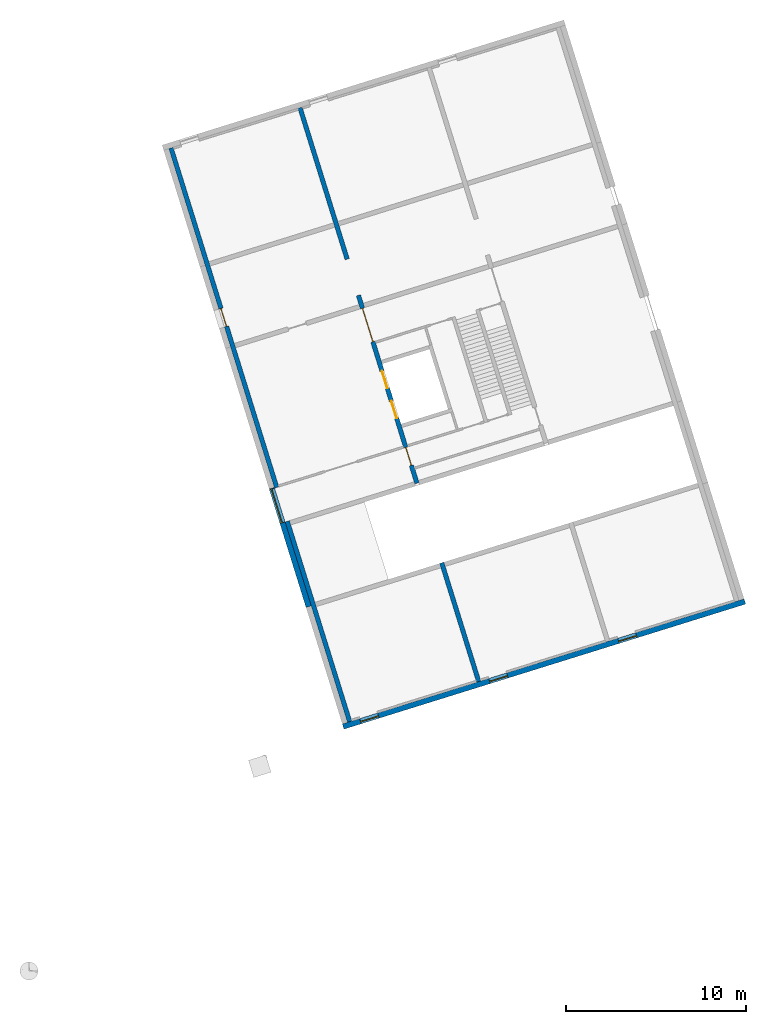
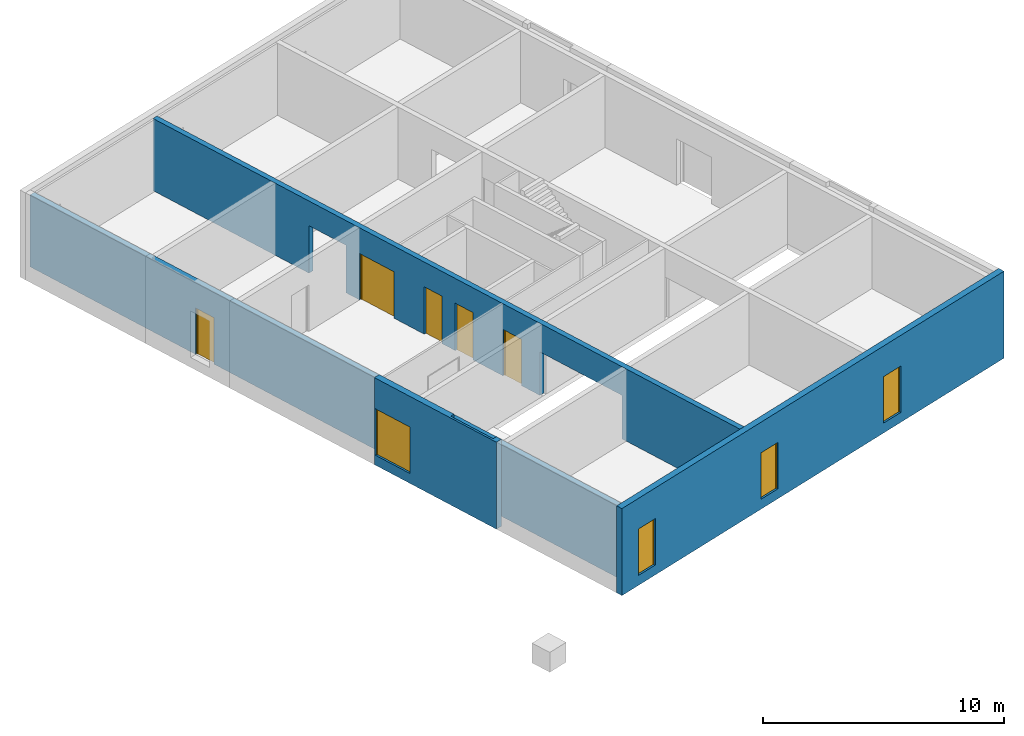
# One storey, part 3 of 6: 9 doors, 4 walls, 12 openings.
"""IFC4 building model written with IfcOpenShell, lengths in metres."""

import ifcopenshell
import ifcopenshell.guid

model = None  # the IFC model being written
_history = None  # IfcOwnerHistory: only IFC2X3 demands one
_inside = {}  # id of a spatial element -> (the spatial element, [elements in it])
_under = {}  # id of a project, library or spatial element -> (it, [spatial elements below it])
_declared = {}  # id of a project -> (the project, [libraries it declares])
_typed = {}  # id of a type object -> (the type object, [elements of that type])
_made_of = {}  # id of a material, layer set ... -> (it, [elements and type objects made of it])


def new_model(schema):
    """Start an empty IFC model of exactly this schema.

    Asked for "IFC4X3", IfcOpenShell would pick the latest addendum, in which some entities
    have other attributes; the version numbers below select the first issue.
    IFC2X3 requires an IfcOwnerHistory on every rooted entity: one is made here for all.
    """
    global model, _history
    if schema == "IFC4X3":
        model = ifcopenshell.file(schema_version=(4, 3, 0, 0))
    else:
        model = ifcopenshell.file(schema=schema)
    _inside.clear()
    _under.clear()
    _declared.clear()
    _typed.clear()
    _made_of.clear()
    _history = None
    if model.schema == "IFC2X3":
        org = make("IfcOrganization", Name="unknown")
        user = make(
            "IfcPersonAndOrganization",
            ThePerson=make("IfcPerson", FamilyName="unknown"),
            TheOrganization=org,
        )
        app = make(
            "IfcApplication",
            ApplicationDeveloper=org,
            Version="unknown",
            ApplicationFullName="unknown",
            ApplicationIdentifier="unknown",
        )
        _history = make(
            "IfcOwnerHistory",
            OwningUser=user,
            OwningApplication=app,
            ChangeAction="ADDED",
            CreationDate=0,
        )
    return model


def make(cls, **values):
    """One entity of the class cls with the attributes given. An attribute that is None is left unset."""
    return model.create_entity(
        cls, **{name: value for name, value in values.items() if value is not None}
    )


def entity(cls, *values):
    """Any entity or typed value of the class cls, its attributes in the order of the schema. None: left unset."""
    e = model.create_entity(cls)
    for i, value in enumerate(values):
        if value is not None:
            e[i] = value
    return e


def rooted(cls, **values):
    """An entity with a GlobalId (a new one), such as an element, a storey or a relation."""
    return make(cls, GlobalId=ifcopenshell.guid.new(), OwnerHistory=_history, **values)


def si_unit(unit_type, name, prefix=None):
    """IfcSIUnit, for example si_unit("LENGTHUNIT", "METRE", prefix="MILLI")."""
    return make("IfcSIUnit", UnitType=unit_type, Prefix=prefix, Name=name)


def converted_unit(unit_type, name, factor, base, dimensions=None, offset=None):
    """IfcConversionBasedUnit, such as the inch: factor (a typed value) times the base unit."""
    return make(
        "IfcConversionBasedUnit"
        if offset is None
        else "IfcConversionBasedUnitWithOffset",
        ConversionOffset=offset,
        Dimensions=None
        if dimensions is None
        else entity("IfcDimensionalExponents", *dimensions),
        UnitType=unit_type,
        Name=name,
        ConversionFactor=make(
            "IfcMeasureWithUnit", ValueComponent=factor, UnitComponent=base
        ),
    )


def assignment(units):
    """IfcUnitAssignment: the units of a project."""
    return None if units is None else make("IfcUnitAssignment", Units=units)


def point(xyz):
    """IfcCartesianPoint."""
    return None if xyz is None else make("IfcCartesianPoint", Coordinates=xyz)


def direction(xyz):
    """IfcDirection."""
    return None if xyz is None else make("IfcDirection", DirectionRatios=xyz)


def frame(location, z_axis=None, x_axis=None):
    """IfcAxis2Placement3D, a coordinate frame: its origin and axes. An axis left out is left unset."""
    return make(
        "IfcAxis2Placement3D",
        Location=point(location),
        Axis=direction(z_axis),
        RefDirection=direction(x_axis),
    )


def origin():
    """The frame at (0, 0, 0) with its axes left unset."""
    return frame((0.0, 0.0, 0.0))


def place(relative_to, where):
    """IfcLocalPlacement: puts the frame where relative to a parent placement (None: the world)."""
    return make(
        "IfcLocalPlacement", PlacementRelTo=relative_to, RelativePlacement=where
    )


def context(
    kind, dimensions, precision=None, world=None, true_north=None, identifier=None
):
    """IfcGeometricRepresentationContext, for example the 3D "Model" context."""
    return make(
        "IfcGeometricRepresentationContext",
        ContextIdentifier=identifier,
        ContextType=kind,
        CoordinateSpaceDimension=dimensions,
        Precision=precision,
        WorldCoordinateSystem=world,
        TrueNorth=true_north,
    )


def subcontext(parent, identifier, kind, view, scale=None):
    """IfcGeometricRepresentationSubContext, for example "Body" below "Model"."""
    return make(
        "IfcGeometricRepresentationSubContext",
        ContextIdentifier=identifier,
        ContextType=kind,
        ParentContext=parent,
        TargetScale=scale,
        TargetView=view,
    )


def project(units=None, contexts=None):
    """IfcProject with its units and contexts."""
    return rooted(
        "IfcProject",
        Name="project",
        RepresentationContexts=contexts,
        UnitsInContext=assignment(units),
    )


def spatial(cls, under=None, at=None, **own):
    """A site, building, storey or space (cls), placed at a placement, below another one or the project."""
    s = rooted(cls, ObjectPlacement=at, **own)
    if under is not None:
        _under.setdefault(under.id(), (under, []))[1].append(s)
    return s


def point_list(points):
    """IfcCartesianPointList2D or 3D."""
    cls = (
        "IfcCartesianPointList2D" if len(points[0]) == 2 else "IfcCartesianPointList3D"
    )
    return make(cls, CoordList=points)


def indexed_curve(points, segments=None, self_intersect=None):
    """IfcIndexedPolyCurve: lines and arcs through numbered points (the first is 1)."""
    return make(
        "IfcIndexedPolyCurve",
        Points=point_list(points),
        Segments=segments,
        SelfIntersect=self_intersect,
    )


def outline(outer, holes=None, kind="AREA"):
    """IfcArbitraryClosedProfileDef: a profile drawn as a closed curve; with holes, ...WithVoids."""
    if holes is None:
        return make("IfcArbitraryClosedProfileDef", ProfileType=kind, OuterCurve=outer)
    return make(
        "IfcArbitraryProfileDefWithVoids",
        ProfileType=kind,
        OuterCurve=outer,
        InnerCurves=holes,
    )


def extrude(swept, where, along, depth):
    """IfcExtrudedAreaSolid: the profile swept, set in the frame where, extruded along a direction by depth."""
    return make(
        "IfcExtrudedAreaSolid",
        SweptArea=swept,
        Position=where,
        ExtrudedDirection=direction(along),
        Depth=depth,
    )


def polygons(points, faces, closed=None, point_numbers=None):
    """IfcPolygonalFaceSet: a face is its outer loop, then its inner loops; points numbered from 1."""
    made = []
    for loops in faces:
        if len(loops) == 1:
            made.append(make("IfcIndexedPolygonalFace", CoordIndex=loops[0]))
        else:
            made.append(
                make(
                    "IfcIndexedPolygonalFaceWithVoids",
                    CoordIndex=loops[0],
                    InnerCoordIndices=loops[1:],
                )
            )
    return make(
        "IfcPolygonalFaceSet",
        Coordinates=point_list(points),
        Closed=closed,
        Faces=made,
        PnIndex=point_numbers,
    )


def shape(context_of_items, identifier, shape_type, items):
    """IfcShapeRepresentation: the items that make up one representation, for example the "Body"."""
    return make(
        "IfcShapeRepresentation",
        ContextOfItems=context_of_items,
        RepresentationIdentifier=identifier,
        RepresentationType=shape_type,
        Items=items,
    )


def source(mapping_origin, context_of_items, identifier, shape_type, items):
    """IfcRepresentationMap: a shape defined once, which mapped items show again and again."""
    return make(
        "IfcRepresentationMap",
        MappingOrigin=mapping_origin,
        MappedRepresentation=shape(context_of_items, identifier, shape_type, items),
    )


def transform(
    local_origin,
    x_axis=None,
    y_axis=None,
    z_axis=None,
    scale=None,
    scale2=None,
    scale3=None,
    uniform=True,
):
    """IfcCartesianTransformationOperator3D, or its non-uniform kind. x_axis, y_axis, z_axis: its Axis1, 2, 3."""
    if uniform:
        return make(
            "IfcCartesianTransformationOperator3D",
            Axis1=direction(x_axis),
            Axis2=direction(y_axis),
            LocalOrigin=point(local_origin),
            Scale=scale,
            Axis3=direction(z_axis),
        )
    return make(
        "IfcCartesianTransformationOperator3DnonUniform",
        Axis1=direction(x_axis),
        Axis2=direction(y_axis),
        LocalOrigin=point(local_origin),
        Scale=scale,
        Axis3=direction(z_axis),
        Scale2=scale2,
        Scale3=scale3,
    )


def mapped(mapping_source, mapping_target):
    """IfcMappedItem: shows the shape of a source again, moved by a transform."""
    return make(
        "IfcMappedItem", MappingSource=mapping_source, MappingTarget=mapping_target
    )


def material(Name=None, Category=None):
    """IfcMaterial."""
    return make("IfcMaterial", Name=Name, Category=Category)


def constituent(of_material, Name=None, Category=None, fraction=None):
    """IfcMaterialConstituent: one of the materials an element consists of."""
    return make(
        "IfcMaterialConstituent",
        Name=Name,
        Material=of_material,
        Fraction=fraction,
        Category=Category,
    )


def constituent_set(constituents=None, Name=None):
    """IfcMaterialConstituentSet."""
    return make(
        "IfcMaterialConstituentSet", Name=Name, MaterialConstituents=constituents
    )


def made_of(thing, what):
    """Note that an element or type object is made of a material, layer set ...; save() writes the relation."""
    if what is not None:
        _made_of.setdefault(what.id(), (what, []))[1].append(thing)
    return thing


def type_object(cls, material=None, **own):
    """A type object (cls), such as IfcWallType, which elements share."""
    return made_of(rooted(cls, **own), material)


def type_shapes(of_type, sources):
    """Give a type object the sources (RepresentationMaps) that its elements show as mapped items."""
    of_type.RepresentationMaps = sources


def element(
    cls,
    number,
    at=None,
    inside=None,
    cuts=None,
    type_object=None,
    material=None,
    context=None,
    identifier="Body",
    shape_type=None,
    held_by="IfcProductDefinitionShape",
    body=None,
    shapes=None,
    **own,
):
    """One element of the class cls, such as IfcWall. Its Tag is "e" and its number.

    at: its placement. inside: the storey or other place that contains it. cuts: it is an
    opening in that element (IfcRelVoidsElement). A single representation is given by context,
    identifier, shape_type and body (its items); several are given by shapes. held_by: the class
    of the entity that holds the representations. save() writes the other relations.
    """
    e = rooted(cls, Tag="e%d" % number, ObjectPlacement=at, **own)
    if body is not None:
        shapes = [shape(context, identifier, shape_type, body)]
    if shapes is not None:
        e.Representation = make(held_by, Representations=shapes)
    if inside is not None:
        _inside.setdefault(inside.id(), (inside, []))[1].append(e)
    if cuts is not None:
        rooted(
            "IfcRelVoidsElement", RelatingBuildingElement=cuts, RelatedOpeningElement=e
        )
    if type_object is not None:
        _typed.setdefault(type_object.id(), (type_object, []))[1].append(e)
    return made_of(e, material)


def fill(opening, filler):
    """IfcRelFillsElement: the door or window that sits in an opening."""
    return rooted(
        "IfcRelFillsElement",
        RelatingOpeningElement=opening,
        RelatedBuildingElement=filler,
    )


def aggregate(whole, parts):
    """IfcRelAggregates: a whole, such as a stair, and the parts it consists of."""
    return rooted("IfcRelAggregates", RelatingObject=whole, RelatedObjects=parts)


def save(model, path):
    """Write the relations noted so far, then the file.

    IfcRelAggregates (storeys below a building ...), IfcRelContainedInSpatialStructure (elements
    in a storey), IfcRelDefinesByType, IfcRelAssociatesMaterial and IfcRelDeclares: one each for
    every whole, place, type object, material and project.
    """
    for whole, parts in _under.values():
        aggregate(whole, parts)
    for where, things in _inside.values():
        rooted(
            "IfcRelContainedInSpatialStructure",
            RelatedElements=things,
            RelatingStructure=where,
        )
    for kind, things in _typed.values():
        rooted("IfcRelDefinesByType", RelatedObjects=things, RelatingType=kind)
    for what, things in _made_of.values():
        rooted("IfcRelAssociatesMaterial", RelatedObjects=things, RelatingMaterial=what)
    for by, libraries in _declared.values():
        rooted("IfcRelDeclares", RelatingContext=by, RelatedDefinitions=libraries)
    model.write(path)


model = new_model("IFC4")

# Units and contexts
model_context = context("Model", 3, precision=1e-05, world=origin(), true_north=direction((6.12323399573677e-17, 1.0)))
body_context = subcontext(model_context, "Body", "Model", "MODEL_VIEW")
ifc_project = project(units=[si_unit("LENGTHUNIT", "METRE"), si_unit("AREAUNIT", "SQUARE_METRE"), si_unit("VOLUMEUNIT", "CUBIC_METRE"), converted_unit("PLANEANGLEUNIT", "DEGREE", entity("IfcPlaneAngleMeasure", 0.0174532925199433), si_unit("PLANEANGLEUNIT", "RADIAN"), dimensions=[0, 0, 0, 0, 0, 0, 0])], contexts=[model_context])

# Site, building, storey
site_placement = place(None, frame((13.1347999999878, 11.9886000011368, 0.0), z_axis=(0.0, 0.0, 1.0), x_axis=(0.954770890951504, 0.297342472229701, 0.0)))
site = spatial("IfcSite", under=ifc_project, at=site_placement, Name="Schiehaven", CompositionType="ELEMENT")
building_placement = place(site_placement, origin())
building = spatial("IfcBuilding", under=site, at=building_placement, Name="VORM huis", CompositionType="ELEMENT")
storey_placement = place(building_placement, origin())
storey = spatial("IfcBuildingStorey", under=building, at=storey_placement, Name="00 begane grond", CompositionType="ELEMENT", Elevation=0.0)

# Wall, openings, door
ifc_material_1 = material(Name="beton_gewapend_ihw", Category="Miscellaneous")
wall_type_1 = type_object("IfcWallType", Name="Basic Wall:28_WA_skelet_wand 250mm_gen", PredefinedType="STANDARD")
wall_1_placement = place(storey_placement, frame((5.0, 0.374999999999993, 0.0), z_axis=(0.0, 0.0, 1.0), x_axis=(0.0, 1.0, 0.0)))
wall_1 = element("IfcWall", 1, at=wall_1_placement, inside=storey, type_object=wall_type_1, material=ifc_material_1, Name="Constructieve wand", ObjectType="Wand", PredefinedType="NOTDEFINED", context=body_context, shape_type="Tessellation", body=[
    polygons([(3.38395977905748e-16, -0.125, 0.0), (11.6500000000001, -0.125000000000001, 0.0), (11.6500000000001, -0.125000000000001, 2.34999999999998), (13.6150000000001, -0.125, 2.34999999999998), (13.6150000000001, -0.125, 0.0), (22.9749999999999, -0.125, 0.0), (22.9749999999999, -0.125, 2.34999999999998), (24.0249999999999, -0.125, 2.34999999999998), (24.0249999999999, -0.125, 0.0), (33.3500000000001, -0.125, 0.0), (33.3500000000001, -0.125, 3.65), (3.38395977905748e-16, -0.125, 3.65), (11.6500000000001, 0.124999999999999, 2.34999999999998), (11.6500000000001, 0.124999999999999, 0.0), (1.35358391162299e-16, 0.124999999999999, 0.0), (1.35358391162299e-16, 0.124999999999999, 3.65), (7.05000000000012, 0.124999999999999, 3.65), (9.45000000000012, 0.125, 3.65), (23.9, 0.124999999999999, 3.65), (26.3, 0.124999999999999, 3.65), (33.3500000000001, 0.124999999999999, 3.65), (33.3500000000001, 0.124999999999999, 0.0), (24.0249999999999, 0.124999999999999, 0.0), (24.0249999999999, 0.124999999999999, 2.34999999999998), (22.9749999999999, 0.125, 2.34999999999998), (22.9749999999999, 0.125, 0.0), (13.6150000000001, 0.125, 0.0), (13.6150000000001, 0.125, 2.34999999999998)], [[[1, 2, 3, 4, 5, 6, 7, 8, 9, 10, 11, 12]], [[13, 14, 15, 16, 17, 18, 19, 20, 21, 22, 23, 24, 25, 26, 27, 28]], [[15, 14, 2, 1]], [[11, 10, 22, 21]], [[12, 11, 21, 20, 19, 18, 17, 16]], [[1, 12, 16, 15]], [[25, 7, 6, 26]], [[8, 24, 23, 9]], [[7, 25, 24, 8]], [[5, 4, 28, 27]], [[3, 2, 14, 13]], [[4, 3, 13, 28]], [[27, 26, 6, 5]], [[22, 10, 9, 23]]], closed=True),
])
opening_1_placement = place(wall_1_placement, origin())
element("IfcOpeningElement", 2, at=opening_1_placement, cuts=wall_1, Name="Vluchtdeur", PredefinedType="OPENING", context=body_context, shape_type="SweptSolid", body=[
    extrude(outline(indexed_curve([(-1.17499999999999, -0.9825), (1.17499999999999, -0.982500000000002), (1.17499999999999, 0.982500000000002), (-1.17499999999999, 0.982500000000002), (-1.17499999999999, -0.9825)], self_intersect=False)), frame((12.6325000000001, -1.39899999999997, 1.17499999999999), z_axis=(0.0, 1.0, 0.0), x_axis=(0.0, 0.0, -1.0)), (0.0, 0.0, 1.0), 3.048),
])
opening_2_placement = place(wall_1_placement, frame((22.9749999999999, -0.125000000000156, 0.0)))
opening_2 = element("IfcOpeningElement", 3, at=opening_2_placement, cuts=wall_1, Name="Vluchtdeur", PredefinedType="OPENING", context=body_context, shape_type="SweptSolid", body=[
    extrude(outline(indexed_curve([(2.34999999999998, -4.865328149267e-30), (2.34999999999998, 1.05), (0.0, 1.05), (0.0, -4.865328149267e-30), (2.34999999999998, -4.865328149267e-30)], self_intersect=False)), frame((0.0, 0.0, 0.0), z_axis=(0.0, 1.0, 0.0), x_axis=(0.0, 0.0, 1.0)), (0.0, 0.0, 1.0), 0.25),
])
ifc_material_2 = material(Name="PD_a_buitenwandopeningen", Category="Miscellaneous")
ifc_constituent_1 = constituent(ifc_material_2, Name="PD_a_buitenwandopeningen", Category="Miscellaneous")
ifc_material_3 = material(Name="metaal_aluminium_ntb", Category="Miscellaneous")
ifc_constituent_2 = constituent(ifc_material_3, Name="metaal_aluminium_ntb", Category="Miscellaneous")
ifc_constituent_set_1 = constituent_set(constituents=[ifc_constituent_1, ifc_constituent_2])
ifc_constituent_3 = constituent(ifc_material_2, Name="PD_a_buitenwandopeningen", Category="Miscellaneous")
ifc_constituent_4 = constituent(ifc_material_3, Name="Panel", Category="Miscellaneous")
ifc_constituent_set_2 = constituent_set(constituents=[ifc_constituent_3, ifc_constituent_4])
door_type_1 = type_object("IfcDoorType", Name="31_DO_buitendeur enkel:buitendeur zelfsluitend 30min", OperationType="NOTDEFINED", PredefinedType="DOOR", material=ifc_constituent_set_2)
shared_shape_1 = source(origin(), body_context, "Body", "SweptSolid", [
    extrude(outline(indexed_curve([(0.475, -1.16249999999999), (0.525000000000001, -1.16249999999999), (0.525000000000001, 1.18749999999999), (-0.525000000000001, 1.18749999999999), (-0.525000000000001, -1.16249999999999), (-0.475, -1.16249999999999), (-0.475, 1.13749999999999), (0.475, 1.13749999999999), (0.475, -1.16249999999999)], self_intersect=False)), frame((0.525000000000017, 0.180000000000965, 1.16249999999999), z_axis=(0.0, -1.0, 0.0), x_axis=(1.0, 0.0, 0.0)), (0.0, 0.0, 1.0), 0.1),
    extrude(outline(indexed_curve([(-0.475, -0.025), (0.475, -0.025), (0.475, 0.025), (-0.475, 0.025), (-0.475, -0.025)], self_intersect=False)), frame((0.525000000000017, 0.130000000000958, 0.0)), (0.0, 0.0, 1.0), 2.29999999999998),
])
type_shapes(door_type_1, [shared_shape_1])
door_1_placement = place(opening_2_placement, origin())
door_1 = element("IfcDoor", 4, at=door_1_placement, inside=storey, type_object=door_type_1, material=ifc_constituent_set_1, Name="Vluchtdeur", ObjectType="Deur", OperationType="NOTDEFINED", OverallHeight=2.34999999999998, OverallWidth=1.05, PredefinedType="DOOR", context=body_context, shape_type="MappedRepresentation", body=[
    mapped(shared_shape_1, transform((0.0, 0.0, 0.0), scale=1.0)),
])
fill(opening_2, door_1)

# Wall, openings, doors
wall_2_placement = place(storey_placement, frame((12.5, 0.375000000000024, 0.0), z_axis=(0.0, 0.0, 1.0), x_axis=(0.0, 1.0, 0.0)))
wall_2 = element("IfcWall", 5, at=wall_2_placement, inside=storey, type_object=wall_type_1, material=ifc_material_1, Name="Constructieve wand", ObjectType="Wand", PredefinedType="NOTDEFINED", context=body_context, shape_type="Tessellation", body=[
    polygons([(18.05, -0.125, 0.0), (19.75, -0.125, 0.0), (19.75, -0.125, 2.34999999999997), (21.7, -0.124999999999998, 2.34999999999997), (21.7, -0.124999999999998, 0.0), (21.95, -0.124999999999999, 0.0), (22.4499999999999, -0.124999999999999, 0.0), (22.4499999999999, -0.124999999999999, 2.4), (24.5499999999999, -0.124999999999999, 2.4), (24.5499999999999, -0.124999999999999, 0.0), (33.35, -0.125, 0.0), (33.35, -0.125, 3.65), (21.95, -0.124999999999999, 3.65), (21.7, -0.124999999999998, 3.65), (11.65, -0.124999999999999, 3.65), (11.4, -0.124999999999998, 3.65), (1.15054632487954e-15, -0.125, 3.65), (1.89501747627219e-15, -0.125, 0.0), (6.90000000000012, -0.125, 0.0), (6.90000000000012, -0.125, 2.2), (11.4, -0.124999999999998, 2.2), (11.4, -0.124999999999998, 0.0), (11.65, -0.124999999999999, 0.0), (12.565, -0.124999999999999, 0.0), (12.565, -0.124999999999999, 2.34999999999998), (13.615, -0.125, 2.34999999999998), (13.615, -0.125, 0.0), (15.3, -0.125, 0.0), (15.3, -0.125, 2.39999999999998), (16.3, -0.124999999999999, 2.39999999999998), (16.3, -0.124999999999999, -2.03576600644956e-32), (17.05, -0.124999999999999, 0.0), (17.05, -0.124999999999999, 2.39999999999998), (18.05, -0.125, 2.39999999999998), (19.75, 0.124999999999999, 2.34999999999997), (19.75, 0.124999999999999, 0.0), (18.05, 0.124999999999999, -2.03576600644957e-32), (18.05, 0.124999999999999, 2.39999999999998), (17.05, 0.125, 2.39999999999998), (17.05, 0.125, 0.0), (16.3, 0.125000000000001, -4.07153201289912e-32), (16.3, 0.125000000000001, 2.39999999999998), (15.3, 0.125, 2.39999999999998), (15.3, 0.125, -2.03576600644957e-32), (13.615, 0.125, 0.0), (13.615, 0.125, 2.34999999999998), (12.565, 0.125000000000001, 2.34999999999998), (12.565, 0.125000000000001, 0.0), (11.4, 0.125000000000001, 0.0), (11.4, 0.125000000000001, 2.2), (6.90000000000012, 0.124999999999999, 2.2), (6.90000000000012, 0.124999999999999, 0.0), (1.69197988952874e-15, 0.125, 0.0), (9.47508738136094e-16, 0.125, 3.65), (33.35, 0.125, 3.65), (33.35, 0.125, 0.0), (24.5499999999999, 0.125000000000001, 0.0), (24.5499999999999, 0.125000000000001, 2.4), (22.4499999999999, 0.125000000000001, 2.4), (22.4499999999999, 0.124999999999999, 0.0), (21.7, 0.125000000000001, 0.0), (21.7, 0.125000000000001, 2.34999999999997)], [[[1, 2, 3, 4, 5, 6, 7, 8, 9, 10, 11, 12, 13, 14, 15, 16, 17, 18, 19, 20, 21, 22, 23, 24, 25, 26, 27, 28, 29, 30, 31, 32, 33, 34]], [[35, 36, 37, 38, 39, 40, 41, 42, 43, 44, 45, 46, 47, 48, 49, 50, 51, 52, 53, 54, 55, 56, 57, 58, 59, 60, 61, 62]], [[18, 53, 52, 19]], [[12, 11, 56, 55]], [[17, 16, 15, 14, 13, 12, 55, 54]], [[18, 17, 54, 53]], [[34, 38, 37, 1]], [[39, 33, 32, 40]], [[38, 34, 33, 39]], [[30, 42, 41, 31]], [[43, 29, 28, 44]], [[42, 30, 29, 43]], [[5, 4, 62, 61]], [[3, 2, 36, 35]], [[4, 3, 35, 62]], [[48, 47, 25, 24]], [[46, 45, 27, 26]], [[47, 46, 26, 25]], [[59, 8, 7, 60]], [[9, 58, 57, 10]], [[8, 59, 58, 9]], [[51, 20, 19, 52]], [[20, 51, 50, 21]], [[21, 50, 49, 22]], [[24, 23, 22, 49, 48]], [[28, 27, 45, 44]], [[56, 11, 10, 57]], [[40, 32, 31, 41]], [[37, 36, 2, 1]], [[61, 60, 7, 6, 5]]], closed=True),
])
opening_3_placement = place(wall_2_placement, origin())
element("IfcOpeningElement", 6, at=opening_3_placement, cuts=wall_2, Name="Constructieve wand", PredefinedType="OPENING", context=body_context, shape_type="SweptSolid", body=[
    extrude(outline(indexed_curve([(-1.2, -1.05), (1.2, -1.05), (1.2, 1.05), (-1.2, 1.05), (-1.2, -1.05)], self_intersect=False)), frame((23.4999999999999, -0.124999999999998, 1.2), z_axis=(0.0, 1.0, 0.0), x_axis=(0.0, 0.0, -1.0)), (0.0, 0.0, 1.0), 0.249999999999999),
])
opening_4_placement = place(wall_2_placement, origin())
element("IfcOpeningElement", 7, at=opening_4_placement, cuts=wall_2, Name="Constructieve wand", PredefinedType="OPENING", context=body_context, shape_type="SweptSolid", body=[
    extrude(outline(indexed_curve([(-1.1, -2.31249999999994), (1.1, -2.31249999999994), (1.1, 2.31249999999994), (-1.1, 2.31249999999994), (-1.1, -2.31249999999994)], self_intersect=False)), frame((9.21250000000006, -0.125000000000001, 1.1), z_axis=(0.0, 1.0, 0.0), x_axis=(0.0, 0.0, -1.0)), (0.0, 0.0, 1.0), 0.249999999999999),
])
opening_5_placement = place(wall_2_placement, frame((-0.375000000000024, 12.5, 0.0), z_axis=(0.0, 0.0, 1.0), x_axis=(0.0, -1.0, 0.0)))
opening_5 = element("IfcOpeningElement", 8, at=opening_5_placement, cuts=wall_2, Name="Brandweerlift", PredefinedType="OPENING", context=body_context, shape_type="SweptSolid", body=[
    extrude(outline(indexed_curve([(-1.19999999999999, -0.500000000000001), (1.19999999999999, -0.500000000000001), (1.19999999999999, 0.499999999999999), (-1.19999999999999, 0.499999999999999), (-1.19999999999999, -0.500000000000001)], self_intersect=False)), frame((12.962638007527, 17.925, 1.19999999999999), z_axis=(-1.0, 0.0, 0.0), x_axis=(0.0, 0.0, -1.0)), (0.0, 0.0, 1.0), 0.756310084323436),
])
opening_6_placement = place(wall_2_placement, frame((-0.375000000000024, 12.5, 0.0), z_axis=(0.0, 0.0, 1.0), x_axis=(0.0, -1.0, 0.0)))
opening_6 = element("IfcOpeningElement", 9, at=opening_6_placement, cuts=wall_2, Name="Brandweerlift", PredefinedType="OPENING", context=body_context, shape_type="SweptSolid", body=[
    extrude(outline(indexed_curve([(-1.19999999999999, -0.499999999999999), (1.19999999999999, -0.499999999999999), (1.19999999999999, 0.500000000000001), (-1.19999999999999, 0.500000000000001), (-1.19999999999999, -0.499999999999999)], self_intersect=False)), frame((12.962638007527, 16.175, 1.19999999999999), z_axis=(-1.0, 0.0, 0.0), x_axis=(0.0, 0.0, -1.0)), (0.0, 0.0, 1.0), 0.756310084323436),
])
opening_7_placement = place(wall_2_placement, frame((12.565, -0.125000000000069, 0.0)))
opening_7 = element("IfcOpeningElement", 10, at=opening_7_placement, cuts=wall_2, Name="Vluchtdeur", PredefinedType="OPENING", context=body_context, shape_type="SweptSolid", body=[
    extrude(outline(indexed_curve([(2.34999999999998, 2.16573425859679e-15), (2.34999999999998, 1.05), (0.0, 1.05), (0.0, 2.16573425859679e-15), (2.34999999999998, 2.16573425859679e-15)], self_intersect=False)), frame((0.0, 0.0, 0.0), z_axis=(0.0, 1.0, 0.0), x_axis=(0.0, 0.0, 1.0)), (0.0, 0.0, 1.0), 0.25),
])
opening_8_placement = place(wall_2_placement, frame((19.75, -0.125000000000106, 0.0)))
opening_8 = element("IfcOpeningElement", 11, at=opening_8_placement, cuts=wall_2, Name="Vluchtdeur", PredefinedType="OPENING", context=body_context, shape_type="SweptSolid", body=[
    extrude(outline(indexed_curve([(2.34999999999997, 1.95), (0.0, 1.95), (0.0, 0.0), (2.34999999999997, 0.0), (2.34999999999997, 1.95)], self_intersect=False)), frame((0.0, 0.0, 0.0), z_axis=(0.0, 1.0, 0.0), x_axis=(0.0, 0.0, 1.0)), (0.0, 0.0, 1.0), 0.25),
])
door_type_2 = type_object("IfcDoorType", Name="66_WI_liftdeur:brandweerlift - tweezijdig toegankelijk", OperationType="NOTDEFINED", PredefinedType="DOOR", material=ifc_material_3)
shared_shape_2 = source(origin(), body_context, "Body", "SweptSolid", [
    extrude(outline(indexed_curve([(-0.25, -0.0250000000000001), (0.25, -0.0249999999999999), (0.25, 0.0250000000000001), (-0.25, 0.0249999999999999), (-0.25, -0.0250000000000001)], self_intersect=False)), frame((0.750000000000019, -0.21263800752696, 0.0)), (0.0, 0.0, 1.0), 2.39999999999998),
    extrude(outline(indexed_curve([(-0.25, -0.0250000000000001), (0.25, -0.0249999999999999), (0.25, 0.0250000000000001), (-0.25, 0.0249999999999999), (-0.25, -0.0250000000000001)], self_intersect=False)), frame((0.250000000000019, -0.212638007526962, 0.0)), (0.0, 0.0, 1.0), 2.39999999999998),
])
type_shapes(door_type_2, [shared_shape_2])
door_2_placement = place(opening_6_placement, frame((12.2873619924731, 15.675, 0.0), z_axis=(0.0, 0.0, 1.0), x_axis=(0.0, 1.0, 0.0)))
door_2 = element("IfcDoor", 12, at=door_2_placement, inside=storey, type_object=door_type_2, material=ifc_material_3, Name="Brandweerlift", ObjectType="Transport", OperationType="NOTDEFINED", OverallHeight=2.39999999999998, OverallWidth=1.0, PredefinedType="DOOR", context=body_context, shape_type="MappedRepresentation", body=[
    mapped(shared_shape_2, transform((0.0, 0.0, 0.0), scale=1.0)),
])
fill(opening_6, door_2)
door_3_placement = place(opening_5_placement, frame((12.2873619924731, 17.425, 0.0), z_axis=(0.0, 0.0, 1.0), x_axis=(0.0, 1.0, 0.0)))
door_3 = element("IfcDoor", 13, at=door_3_placement, inside=storey, type_object=door_type_2, material=ifc_material_3, Name="Brandweerlift", ObjectType="Transport", OperationType="NOTDEFINED", OverallHeight=2.39999999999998, OverallWidth=1.0, PredefinedType="DOOR", context=body_context, shape_type="MappedRepresentation", body=[
    mapped(shared_shape_2, transform((0.0, 0.0, 0.0), scale=1.0)),
])
fill(opening_5, door_3)
ifc_material_4 = material(Name="PD_a_binnenwandopeningen", Category="Miscellaneous")
ifc_constituent_5 = constituent(ifc_material_4, Name="PD_a_binnenwandopeningen", Category="Miscellaneous")
ifc_constituent_6 = constituent(ifc_material_3, Name="metaal_aluminium_ntb", Category="Miscellaneous")
ifc_constituent_set_3 = constituent_set(constituents=[ifc_constituent_5, ifc_constituent_6])
ifc_constituent_7 = constituent(ifc_material_4, Name="PD_a_binnenwandopeningen", Category="Miscellaneous")
ifc_constituent_8 = constituent(ifc_material_3, Name="Panel", Category="Miscellaneous")
ifc_constituent_set_4 = constituent_set(constituents=[ifc_constituent_7, ifc_constituent_8])
door_type_3 = type_object("IfcDoorType", Name="32_DO_binnendeur enkel:binnendeur zelfsluitend 30min", OperationType="NOTDEFINED", PredefinedType="DOOR", material=ifc_constituent_set_4)
shared_shape_3 = source(origin(), body_context, "Body", "SweptSolid", [
    extrude(outline(indexed_curve([(0.475, -1.16249999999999), (0.525000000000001, -1.16249999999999), (0.525000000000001, 1.18749999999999), (-0.525000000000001, 1.18749999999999), (-0.525000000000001, -1.16249999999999), (-0.475, -1.16249999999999), (-0.475, 1.13749999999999), (0.475, 1.13749999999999), (0.475, -1.16249999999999)], self_intersect=False)), frame((0.525000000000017, 0.174999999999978, 1.16249999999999), z_axis=(0.0, -1.0, 0.0), x_axis=(1.0, 0.0, 0.0)), (0.0, 0.0, 1.0), 0.1),
    extrude(outline(indexed_curve([(-0.475, -0.025), (0.475, -0.025), (0.475, 0.025), (-0.475, 0.025), (-0.475, -0.025)], self_intersect=False)), frame((0.525000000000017, 0.12499999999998, 0.0)), (0.0, 0.0, 1.0), 2.29999999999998),
])
type_shapes(door_type_3, [shared_shape_3])
door_4_placement = place(opening_7_placement, origin())
door_4 = element("IfcDoor", 14, at=door_4_placement, inside=storey, type_object=door_type_3, material=ifc_constituent_set_3, Name="Vluchtdeur", ObjectType="Deur", OperationType="NOTDEFINED", OverallHeight=2.34999999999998, OverallWidth=1.05, PredefinedType="DOOR", context=body_context, shape_type="MappedRepresentation", body=[
    mapped(shared_shape_3, transform((0.0, 0.0, 0.0), scale=1.0)),
])
fill(opening_7, door_4)
ifc_constituent_9 = constituent(ifc_material_4, Name="PD_a_binnenwandopeningen", Category="Miscellaneous")
ifc_constituent_10 = constituent(ifc_material_3, Name="metaal_aluminium_ntb", Category="Miscellaneous")
ifc_constituent_set_5 = constituent_set(constituents=[ifc_constituent_9, ifc_constituent_10])
ifc_constituent_11 = constituent(ifc_material_4, Name="PD_a_binnenwandopeningen", Category="Miscellaneous")
ifc_constituent_12 = constituent(ifc_material_3, Name="Panel", Category="Miscellaneous")
ifc_constituent_set_6 = constituent_set(constituents=[ifc_constituent_11, ifc_constituent_12])
door_type_4 = type_object("IfcDoorType", Name="32_DO_binnendeur dubbel:binnendeur zelfsluitend 30min", OperationType="NOTDEFINED", PredefinedType="DOOR", material=ifc_constituent_set_6)
shared_shape_4 = source(origin(), body_context, "Body", "SweptSolid", [
    extrude(outline(indexed_curve([(-1.16249999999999, -0.975), (1.18749999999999, -0.975), (1.18749999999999, 0.975), (-1.16249999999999, 0.975), (-1.16249999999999, 0.925), (1.13749999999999, 0.925), (1.13749999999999, -0.925), (-1.16249999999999, -0.925), (-1.16249999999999, -0.975)], self_intersect=False)), frame((0.975, 0.075000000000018, 1.16249999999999), z_axis=(0.0, 1.0, 0.0), x_axis=(0.0, 0.0, 1.0)), (0.0, 0.0, 1.0), 0.1),
    extrude(outline(indexed_curve([(-0.025, -0.462499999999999), (0.025, -0.462499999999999), (0.025, 0.462499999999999), (-0.025, 0.462499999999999), (-0.025, -0.462499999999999)], self_intersect=False)), frame((1.4375, 0.124999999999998, 0.0), z_axis=(0.0, 0.0, 1.0), x_axis=(0.0, 1.0, 0.0)), (0.0, 0.0, 1.0), 2.29999999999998),
    extrude(outline(indexed_curve([(-0.0249999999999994, -0.4625), (0.0250000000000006, -0.4625), (0.0249999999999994, 0.4625), (-0.0250000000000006, 0.4625), (-0.0249999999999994, -0.4625)], self_intersect=False)), frame((0.5125, 0.125000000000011, 0.0), z_axis=(0.0, 0.0, 1.0), x_axis=(0.0, 1.0, 0.0)), (0.0, 0.0, 1.0), 2.29999999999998),
])
type_shapes(door_type_4, [shared_shape_4])
door_5_placement = place(opening_8_placement, origin())
door_5 = element("IfcDoor", 15, at=door_5_placement, inside=storey, type_object=door_type_4, material=ifc_constituent_set_5, Name="Vluchtdeur", ObjectType="Deur", OperationType="NOTDEFINED", OverallHeight=2.34999999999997, OverallWidth=1.95, PredefinedType="DOOR", context=body_context, shape_type="MappedRepresentation", body=[
    mapped(shared_shape_4, transform((0.0, 0.0, 0.0), scale=1.0)),
])
fill(opening_8, door_5)

ifc_material_5 = material(Name="ntb_ntb_ntb", Category="Miscellaneous")
wall_type_2 = type_object("IfcWallType", Name="Basic Wall: 300mm_gen", PredefinedType="STANDARD")
wall_3_placement = place(storey_placement, frame((27.9250000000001, 0.224999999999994, -0.5), z_axis=(0.0, 0.0, 1.0), x_axis=(-1.0, 0.0, 0.0)))
wall_3 = element("IfcWall", 16, at=wall_3_placement, inside=storey, type_object=wall_type_2, material=ifc_material_5, Name="Gevelwand", ObjectType="Wand", PredefinedType="NOTDEFINED", context=body_context, shape_type="Tessellation", body=[
    polygons([(5.10168574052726e-15, -0.15, 0.0), (23.05, -0.15, 0.0), (23.35, -0.15, 0.0), (23.35, -0.15, 4.4), (23.05, -0.15, 4.4), (0.300000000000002, -0.15, 4.4), (5.10168574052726e-15, -0.15, 4.4), (5.10168574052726e-15, -0.15, 0.5), (22.3500000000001, -0.15, 2.84999999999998), (22.3500000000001, -0.15, 0.5), (21.3000000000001, -0.15, 0.5), (21.3000000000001, -0.15, 2.84999999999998), (14.8499999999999, -0.15, 2.84999999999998), (14.8499999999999, -0.15, 0.5), (13.7999999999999, -0.15, 0.5), (13.7999999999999, -0.15, 2.84999999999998), (7.34999999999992, -0.15, 2.84999999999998), (7.34999999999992, -0.15, 0.5), (6.29999999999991, -0.15, 0.5), (6.29999999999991, -0.15, 2.84999999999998), (-4.17742507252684e-15, 0.15, 0.0), (8.81698047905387e-15, 0.15, 4.4), (23.35, 0.15, 4.4), (23.35, 0.15, 0.0), (22.3500000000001, 0.15, 2.84999999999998), (21.3000000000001, 0.15, 2.84999999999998), (21.3000000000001, 0.15, 0.5), (22.3500000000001, 0.15, 0.5), (14.8499999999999, 0.15, 2.84999999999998), (13.7999999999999, 0.15, 2.84999999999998), (13.7999999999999, 0.15, 0.5), (14.8499999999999, 0.15, 0.5), (7.34999999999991, 0.15, 2.84999999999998), (6.29999999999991, 0.15, 2.84999999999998), (6.29999999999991, 0.15, 0.5), (7.34999999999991, 0.15, 0.5)], [[[1, 2, 3, 4, 5, 6, 7, 8], [9, 10, 11, 12], [13, 14, 15, 16], [17, 18, 19, 20]], [[21, 22, 23, 24], [25, 26, 27, 28], [29, 30, 31, 32], [33, 34, 35, 36]], [[3, 2, 1, 21, 24]], [[7, 6, 5, 4, 23, 22]], [[1, 8, 7, 22, 21]], [[10, 9, 25, 28]], [[11, 10, 28, 27]], [[12, 11, 27, 26]], [[9, 12, 26, 25]], [[14, 13, 29, 32]], [[15, 14, 32, 31]], [[16, 15, 31, 30]], [[13, 16, 30, 29]], [[18, 17, 33, 36]], [[19, 18, 36, 35]], [[20, 19, 35, 34]], [[17, 20, 34, 33]], [[4, 3, 24, 23]]], closed=True),
])
opening_9_placement = place(wall_3_placement, frame((21.3000000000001, -0.150000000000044, 0.5)))
opening_9 = element("IfcOpeningElement", 17, at=opening_9_placement, cuts=wall_3, Name="Woningtoegangsdeur", PredefinedType="OPENING", context=body_context, shape_type="SweptSolid", body=[
    extrude(outline(indexed_curve([(2.34999999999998, 1.05), (0.0, 1.05), (0.0, -3.47517880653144e-32), (2.34999999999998, -3.47517880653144e-32), (2.34999999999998, 1.05)], self_intersect=False)), frame((0.0, 0.0, 0.0), z_axis=(0.0, 1.0, 0.0), x_axis=(0.0, 0.0, 1.0)), (0.0, 0.0, 1.0), 0.3),
])
opening_10_placement = place(wall_3_placement, frame((13.7999999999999, -0.150000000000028, 0.5)))
opening_10 = element("IfcOpeningElement", 18, at=opening_10_placement, cuts=wall_3, Name="Woningtoegangsdeur", PredefinedType="OPENING", context=body_context, shape_type="SweptSolid", body=[
    extrude(outline(indexed_curve([(2.34999999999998, 1.05), (0.0, 1.05), (0.0, -3.47517880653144e-32), (2.34999999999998, -3.47517880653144e-32), (2.34999999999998, 1.05)], self_intersect=False)), frame((0.0, 0.0, 0.0), z_axis=(0.0, 1.0, 0.0), x_axis=(0.0, 0.0, 1.0)), (0.0, 0.0, 1.0), 0.3),
])
opening_11_placement = place(wall_3_placement, frame((6.29999999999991, -0.150000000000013, 0.5)))
opening_11 = element("IfcOpeningElement", 19, at=opening_11_placement, cuts=wall_3, Name="Woningtoegangsdeur", PredefinedType="OPENING", context=body_context, shape_type="SweptSolid", body=[
    extrude(outline(indexed_curve([(2.34999999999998, 1.05), (0.0, 1.05), (0.0, -3.47517880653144e-32), (2.34999999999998, -3.47517880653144e-32), (2.34999999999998, 1.05)], self_intersect=False)), frame((0.0, 0.0, 0.0), z_axis=(0.0, 1.0, 0.0), x_axis=(0.0, 0.0, 1.0)), (0.0, 0.0, 1.0), 0.3),
])
ifc_constituent_13 = constituent(ifc_material_2, Name="PD_a_buitenwandopeningen", Category="Miscellaneous")
ifc_constituent_14 = constituent(ifc_material_3, Name="metaal_aluminium_ntb", Category="Miscellaneous")
ifc_constituent_set_7 = constituent_set(constituents=[ifc_constituent_13, ifc_constituent_14])
ifc_constituent_15 = constituent(ifc_material_2, Name="PD_a_buitenwandopeningen", Category="Miscellaneous")
ifc_constituent_16 = constituent(ifc_material_3, Name="Panel", Category="Miscellaneous")
ifc_constituent_set_8 = constituent_set(constituents=[ifc_constituent_15, ifc_constituent_16])
door_type_5 = type_object("IfcDoorType", Name="31_DO_buitendeur enkel:woningtoegangsdeur", OperationType="REVOLVING", PredefinedType="DOOR", material=ifc_constituent_set_8)
shared_shape_5 = source(origin(), body_context, "Body", "SweptSolid", [
    extrude(outline(indexed_curve([(-1.16249999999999, -0.525000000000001), (1.18749999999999, -0.525), (1.18749999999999, 0.525000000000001), (-1.16249999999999, 0.525), (-1.16249999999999, 0.475), (1.13749999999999, 0.475), (1.13749999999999, -0.475), (-1.16249999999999, -0.475), (-1.16249999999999, -0.525000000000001)], self_intersect=False)), frame((0.525000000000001, 0.130000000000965, 1.16249999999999), z_axis=(0.0, 1.0, 0.0), x_axis=(0.0, 0.0, 1.0)), (0.0, 0.0, 1.0), 0.1),
    extrude(outline(indexed_curve([(-0.025, -0.475), (0.025, -0.475), (0.025, 0.475), (-0.025, 0.475), (-0.025, -0.475)], self_intersect=False)), frame((0.525000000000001, 0.180000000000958, 0.0), z_axis=(0.0, 0.0, 1.0), x_axis=(0.0, 1.0, 0.0)), (0.0, 0.0, 1.0), 2.29999999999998),
])
type_shapes(door_type_5, [shared_shape_5])
door_6_placement = place(opening_9_placement, origin())
door_6 = element("IfcDoor", 20, at=door_6_placement, inside=storey, type_object=door_type_5, material=ifc_constituent_set_7, Name="Woningtoegangsdeur", ObjectType="Deur", OperationType="REVOLVING", OverallHeight=2.34999999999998, OverallWidth=1.05, PredefinedType="DOOR", context=body_context, shape_type="MappedRepresentation", body=[
    mapped(shared_shape_5, transform((0.0, 0.0, 0.0), scale=1.0)),
])
fill(opening_9, door_6)
ifc_constituent_17 = constituent(ifc_material_2, Name="PD_a_buitenwandopeningen", Category="Miscellaneous")
ifc_constituent_18 = constituent(ifc_material_3, Name="metaal_aluminium_ntb", Category="Miscellaneous")
ifc_constituent_set_9 = constituent_set(constituents=[ifc_constituent_17, ifc_constituent_18])
door_7_placement = place(opening_10_placement, origin())
door_7 = element("IfcDoor", 21, at=door_7_placement, inside=storey, type_object=door_type_5, material=ifc_constituent_set_9, Name="Woningtoegangsdeur", ObjectType="Deur", OperationType="REVOLVING", OverallHeight=2.34999999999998, OverallWidth=1.05, PredefinedType="DOOR", context=body_context, shape_type="MappedRepresentation", body=[
    mapped(shared_shape_5, transform((0.0, 0.0, 0.0), scale=1.0)),
])
fill(opening_10, door_7)
ifc_constituent_19 = constituent(ifc_material_2, Name="PD_a_buitenwandopeningen", Category="Miscellaneous")
ifc_constituent_20 = constituent(ifc_material_3, Name="metaal_aluminium_ntb", Category="Miscellaneous")
ifc_constituent_set_10 = constituent_set(constituents=[ifc_constituent_19, ifc_constituent_20])
door_8_placement = place(opening_11_placement, origin())
door_8 = element("IfcDoor", 22, at=door_8_placement, inside=storey, type_object=door_type_5, material=ifc_constituent_set_10, Name="Woningtoegangsdeur", ObjectType="Deur", OperationType="REVOLVING", OverallHeight=2.34999999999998, OverallWidth=1.05, PredefinedType="DOOR", context=body_context, shape_type="MappedRepresentation", body=[
    mapped(shared_shape_5, transform((0.0, 0.0, 0.0), scale=1.0)),
])
fill(opening_11, door_8)

# Wall, opening, door
wall_4_placement = place(storey_placement, frame((4.72500000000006, 7.15000000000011, -0.5), z_axis=(0.0, 0.0, 1.0), x_axis=(0.0, 1.0, 0.0)))
wall_4 = element("IfcWall", 23, at=wall_4_placement, inside=storey, type_object=wall_type_2, material=ifc_material_5, Name="Gevelwand", ObjectType="Wand", PredefinedType="NOTDEFINED", context=body_context, shape_type="Tessellation", body=[
    polygons([(0.0, -0.15, 0.0), (6.89, -0.149999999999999, 0.0), (6.89, -0.149999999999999, 4.4), (2.675, -0.149999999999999, 4.4), (2.675, -0.149999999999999, 4.15), (0.275000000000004, -0.149999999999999, 4.15), (0.275000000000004, -0.149999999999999, 4.4), (0.0, -0.15, 4.4), (4.87499999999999, -0.149999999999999, 2.84999999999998), (6.83999999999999, -0.149999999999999, 2.84999999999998), (6.83999999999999, -0.149999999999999, 0.5), (4.87499999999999, -0.149999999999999, 0.5), (6.89, 0.150000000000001, 0.0), (8.88178419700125e-16, 0.150000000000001, 0.0), (8.88178419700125e-16, 0.150000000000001, 4.4), (6.89, 0.150000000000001, 4.4), (6.83999999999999, 0.150000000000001, 2.84999999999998), (4.87499999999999, 0.150000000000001, 2.84999999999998), (4.87499999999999, 0.150000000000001, 0.5), (6.83999999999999, 0.150000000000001, 0.5), (0.275000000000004, 0.0499999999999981, 4.4), (2.675, 0.050000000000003, 4.4), (2.675, 0.050000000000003, 4.15), (0.275000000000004, 0.0499999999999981, 4.15)], [[[1, 2, 3, 4, 5, 6, 7, 8], [9, 10, 11, 12]], [[13, 14, 15, 16], [17, 18, 19, 20]], [[2, 1, 14, 13]], [[3, 2, 13, 16]], [[16, 15, 8, 7, 21, 22, 4, 3]], [[1, 8, 15, 14]], [[10, 9, 18, 17]], [[9, 12, 19, 18]], [[12, 11, 20, 19]], [[11, 10, 17, 20]], [[23, 24, 6, 5]], [[24, 21, 7, 6]], [[24, 23, 22, 21]], [[22, 23, 5, 4]]], closed=True),
])
opening_12_placement = place(wall_4_placement, frame((4.87499999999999, -0.15000000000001, 0.5)))
opening_12 = element("IfcOpeningElement", 24, at=opening_12_placement, cuts=wall_4, Name="Vluchtdeur", PredefinedType="OPENING", context=body_context, shape_type="SweptSolid", body=[
    extrude(outline(indexed_curve([(2.34999999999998, 1.965), (0.0, 1.965), (0.0, -6.56822617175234e-31), (2.34999999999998, -6.56822617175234e-31), (2.34999999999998, 1.965)], self_intersect=False)), frame((0.0, 0.0, 0.0), z_axis=(0.0, 1.0, 0.0), x_axis=(0.0, 0.0, 1.0)), (0.0, 0.0, 1.0), 0.3),
])
ifc_constituent_21 = constituent(ifc_material_2, Name="PD_a_buitenwandopeningen", Category="Miscellaneous")
ifc_constituent_22 = constituent(ifc_material_3, Name="metaal_aluminium_ntb", Category="Miscellaneous")
ifc_constituent_set_11 = constituent_set(constituents=[ifc_constituent_21, ifc_constituent_22])
ifc_constituent_23 = constituent(ifc_material_2, Name="PD_a_buitenwandopeningen", Category="Miscellaneous")
ifc_constituent_24 = constituent(ifc_material_3, Name="Panel", Category="Miscellaneous")
ifc_constituent_set_12 = constituent_set(constituents=[ifc_constituent_23, ifc_constituent_24])
door_type_6 = type_object("IfcDoorType", Name="31_DO_buitendeur dubbel:buitendeur zelfsluitend 30min", OperationType="NOTDEFINED", PredefinedType="DOOR", material=ifc_constituent_set_12)
shared_shape_6 = source(origin(), body_context, "Body", "SweptSolid", [
    extrude(outline(indexed_curve([(-1.16249999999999, -0.982500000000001), (1.18749999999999, -0.982500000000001), (1.18749999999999, 0.982500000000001), (-1.16249999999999, 0.982500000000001), (-1.16249999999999, 0.932499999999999), (1.13749999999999, 0.9325), (1.13749999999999, -0.932499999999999), (-1.16249999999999, -0.932499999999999), (-1.16249999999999, -0.982500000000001)], self_intersect=False)), frame((0.982500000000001, 0.130000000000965, 1.16249999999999), z_axis=(0.0, 1.0, 0.0), x_axis=(0.0, 0.0, 1.0)), (0.0, 0.0, 1.0), 0.1),
    extrude(outline(indexed_curve([(-0.025, -0.466249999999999), (0.025, -0.466249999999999), (0.025, 0.466249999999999), (-0.025, 0.466249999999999), (-0.025, -0.466249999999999)], self_intersect=False)), frame((1.44875, 0.180000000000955, 0.0), z_axis=(0.0, 0.0, 1.0), x_axis=(0.0, 1.0, 0.0)), (0.0, 0.0, 1.0), 2.29999999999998),
    extrude(outline(indexed_curve([(-0.0249999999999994, -0.46625), (0.0250000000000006, -0.46625), (0.0249999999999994, 0.46625), (-0.0250000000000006, 0.466249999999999), (-0.0249999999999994, -0.46625)], self_intersect=False)), frame((0.516250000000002, 0.180000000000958, 0.0), z_axis=(0.0, 0.0, 1.0), x_axis=(0.0, 1.0, 0.0)), (0.0, 0.0, 1.0), 2.29999999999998),
])
type_shapes(door_type_6, [shared_shape_6])
door_9_placement = place(opening_12_placement, origin())
door_9 = element("IfcDoor", 25, at=door_9_placement, inside=storey, type_object=door_type_6, material=ifc_constituent_set_11, Name="Vluchtdeur", ObjectType="Deur", OperationType="NOTDEFINED", OverallHeight=2.34999999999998, OverallWidth=1.965, PredefinedType="DOOR", context=body_context, shape_type="MappedRepresentation", body=[
    mapped(shared_shape_6, transform((0.0, 0.0, 0.0), scale=1.0)),
])
fill(opening_12, door_9)

save(model, "model.ifc")
